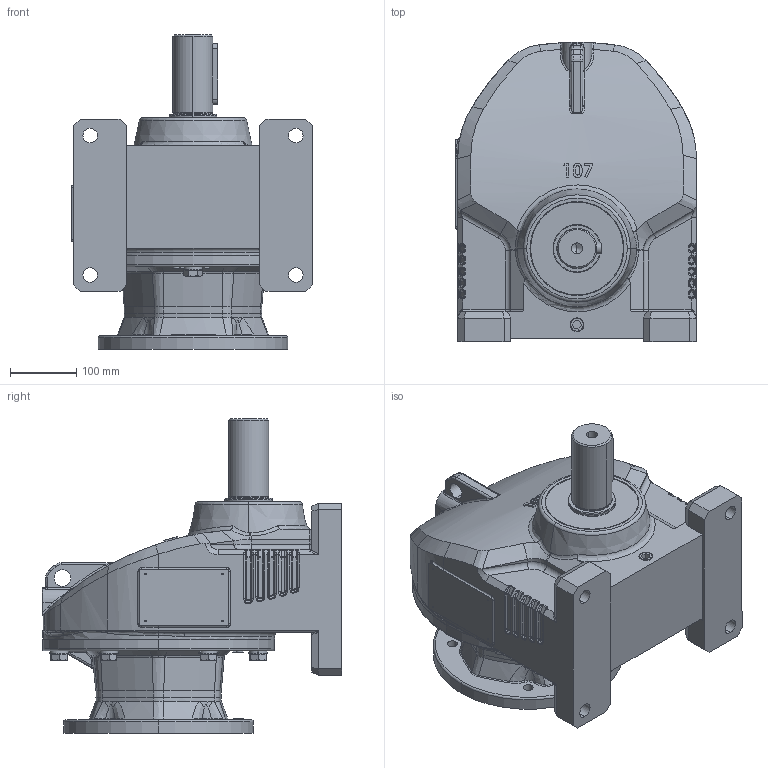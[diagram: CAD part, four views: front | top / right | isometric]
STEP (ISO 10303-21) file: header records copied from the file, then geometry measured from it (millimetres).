
FILE_DESCRIPTION (( 'STEP AP203' ), '1' );
FILE_NAME ('RX107HF-284TC.STEP', '2015-03-16T05:56:38', ( 'user' ), ( '' ), 'SwSTEP 2.0', 'SolidWorks 2012', '' );
FILE_SCHEMA (( 'CONFIG_CONTROL_DESIGN' ));
Length unit declared in the file: millimetre
Products named in the file (27): PWS16_JIS B 1251 No.2 16; PTBA16050_JIS B 1180 Continuous thread hexagon head bolt A M16 x 45 --N; P125_JKGA3227R; PCA032_JIS B 2804 Shaft use 32; PKD0807025; PSS080105131; PTAA16050; KFGG284T; KNGH284T32_KNGH284T32; JHGA10725; PJB04; PSS072140121; PCB140; PKD1811030S; PCA065_JIS B 2804 Shaft use 65; PBA6313_SKF - 6313 - 10,DE,NC,10_68; KEGX107; JCHX107; RX107HF-284TC; JSPC060072005; PKD5_8092; PCA060_JIS B 2804 Shaft use 60; PBA6312_SKF - 6312 - 10,DE,NC,10_68; JKGB13791L_JKGB13791L; 107法蘭入力組合284T_32; PBA6216_SKF - 6216 - 14,DE,NC,14_68; PBA6215_SKF - 6215 - 16,DE,NC,16_68
Assembly tree (45 placements, depth 3):
  RX107HF-284TC
    JCHX107
    KEGX107
    PBA6313_SKF - 6313 - 10,DE,NC,10_68
    PCA065_JIS B 2804 Shaft use 65
    PKD1811030S
    PCB140
    PSS072140121
    PJB04  x4
    107法蘭入力組合284T_32
      JHGA10725
      KNGH284T32_KNGH284T32
      KFGG284T
      PTAA16050  x6
      PSS080105131
      PKD0807025
      PCA032_JIS B 2804 Shaft use 32
      P125_JKGA3227R
      PTBA16050_JIS B 1180 Continuous thread hexagon head bolt A M16 x 45 --N  x6
      PWS16_JIS B 1251 No.2 16  x6
      PBA6215_SKF - 6215 - 16,DE,NC,16_68
      PBA6216_SKF - 6216 - 14,DE,NC,14_68
      PJB04
    JKGB13791L_JKGB13791L
    PBA6312_SKF - 6312 - 10,DE,NC,10_68
    PCA060_JIS B 2804 Shaft use 60
    PKD5_8092
    JSPC060072005
Bounding box: 363 x 451 x 474 mm (x, y, z)
Volume: 13468546.7 mm3; surface area: 2223917.9 mm2
Topology: 44 solids, 44 shells, 2517 faces, 6713 edges, 4181 vertices
Faces by surface type: cylinder 757, plane 677, torus 370, bspline 337, cone 260, sphere 116
Entity records: 95314 total; most frequent: CARTESIAN_POINT 40154, ORIENTED_EDGE 11538, DIRECTION 10245, EDGE_CURVE 5769, AXIS2_PLACEMENT_3D 4264, VERTEX_POINT 3651, EDGE_LOOP 2402, CIRCLE 2372
